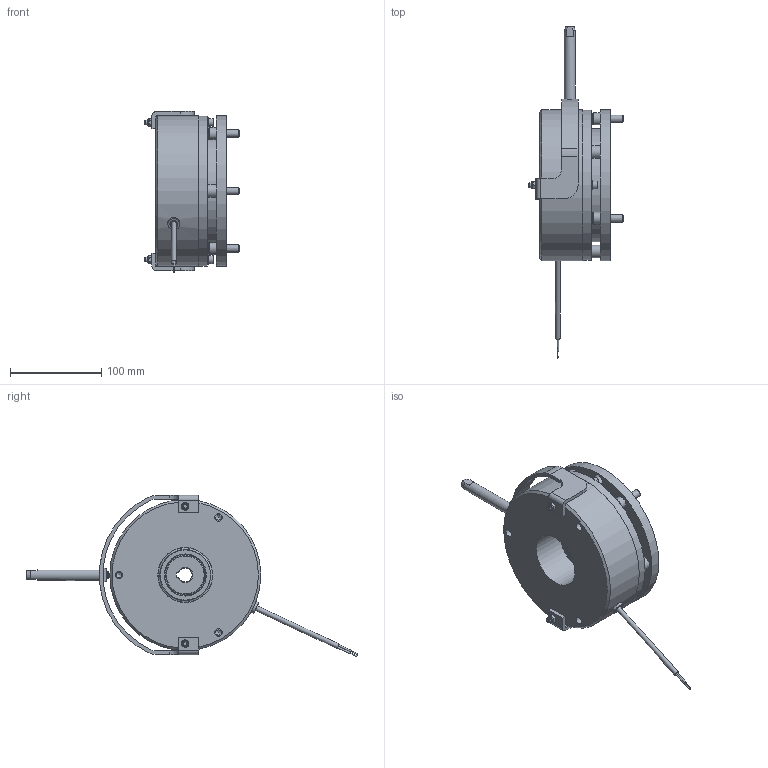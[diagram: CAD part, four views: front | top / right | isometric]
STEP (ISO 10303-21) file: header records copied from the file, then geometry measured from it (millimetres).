
FILE_DESCRIPTION(/* description */ (''),/* implementation_level */ '2;1');
FILE_NAME(/* name */ 'C:\SapWorkDir\Inventor\IP1\ConvertTempPath\5028680_IPT_000.ipt.stp',/* time_stamp */ '2020-09-16T16:38:41+02:00',/* author */ ('STRATE'),/* organization */ (''),/* preprocessor_version */ 'ST-DEVELOPER v17',/* originating_system */ 'Autodesk Inventor 2018',/* authorisation */ '');
FILE_SCHEMA (('AUTOMOTIVE_DESIGN { 1 0 10303 214 3 1 1 }'));
Length unit declared in the file: millimetre
Products named in the file (1): 5028680
Bounding box: 103 x 362.73 x 176.14 mm (x, y, z)
Volume: 1427804.2 mm3; surface area: 219209.2 mm2
Topology: 3 solids, 3 shells, 664 faces, 1871 edges, 1261 vertices
Faces by surface type: cylinder 368, plane 184, cone 87, torus 23, bspline 2
Full cylindrical faces by diameter (mm): 1 x2, 1.85 x2, 4.917 x2, 5 x4, 5.3 x3, 6 x2, 6.6 x1, 6.8 x2, 7.233 x3, 7.3 x2, 8 x8, 8.2 x3, 8.4 x3, 8.5 x2, 9 x6, 10 x4, 12 x3, 13 x3, 13.2 x1, 13.8 x3, 14 x1, 14.5 x6, 15.8 x3, 55 x1, 60 x2, 79.5 x2, 80.1 x2, 124 x1, 164 x1, 165 x2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
Entity records: 25365 total; most frequent: CARTESIAN_POINT 7564, ORIENTED_EDGE 3730, DIRECTION 3455, EDGE_CURVE 1865, AXIS2_PLACEMENT_3D 1403, VERTEX_POINT 1261, EDGE_LOOP 770, CIRCLE 716
